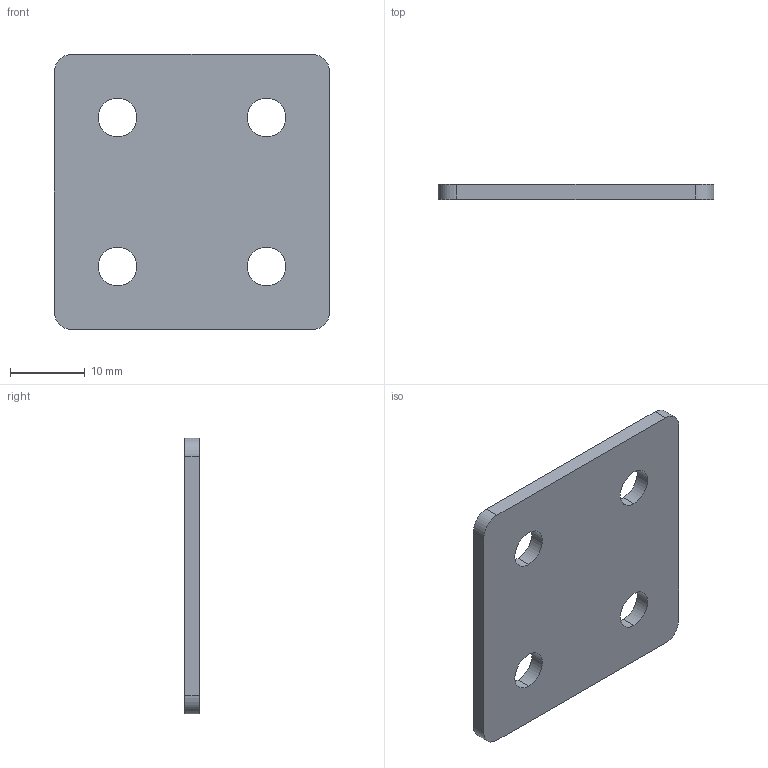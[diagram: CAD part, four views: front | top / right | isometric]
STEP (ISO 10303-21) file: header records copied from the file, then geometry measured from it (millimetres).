
FILE_DESCRIPTION (( 'STEP AP203' ), '1' );
FILE_NAME ('ﾏ-4ﾊ-20.STEP', '2016-07-23T14:55:18', ( '' ), ( '' ), 'SwSTEP 2.0', 'SolidWorks 2014', '' );
FILE_SCHEMA (( 'CONFIG_CONTROL_DESIGN' ));
Length unit declared in the file: millimetre
Products named in the file (1): ﾏ-4ﾊ-20
Bounding box: 37 x 2 x 37 mm (x, y, z)
Surface area: 2975.5 mm2 (no closed solid volume)
Topology: 0 solids, 1 shells, 18 faces, 48 edges, 32 vertices
Faces by surface type: cylinder 12, plane 6
Entity records: 669 total; most frequent: DIRECTION 110, CARTESIAN_POINT 99, ORIENTED_EDGE 96, EDGE_CURVE 48, AXIS2_PLACEMENT_3D 43, VERTEX_POINT 32, EDGE_LOOP 26, LINE 24
